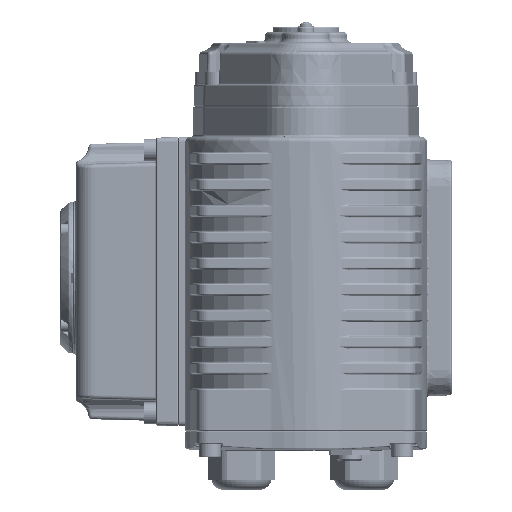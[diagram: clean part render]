
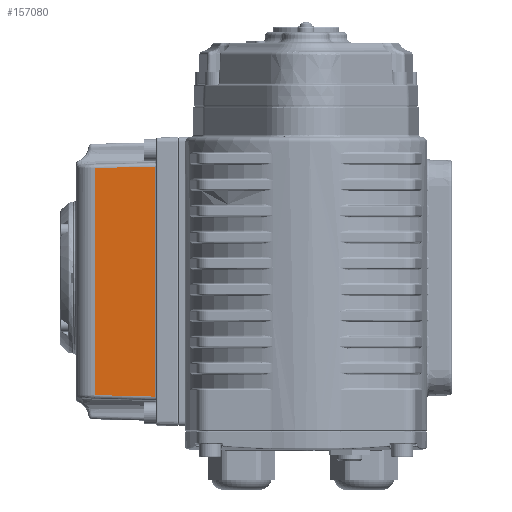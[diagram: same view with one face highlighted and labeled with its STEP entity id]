
A CAD part, left-side view. The second image highlights one B-rep face of the part: STEP entity #157080.
In plain terms, the highlighted planar face has unit normal (-1, 0.026, 0).
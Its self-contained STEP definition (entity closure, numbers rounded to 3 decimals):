
#22828 = VERTEX_POINT ( 'NONE', #206413 ) ;
#26463 = CARTESIAN_POINT ( 'NONE',  ( -59., 58.5, -56. ) ) ;
#46258 = EDGE_CURVE ( 'NONE', #158317, #256857, #146414, .T. ) ;
#54008 = VECTOR ( 'NONE', #283298, 1000. ) ;
#56635 = ORIENTED_EDGE ( 'NONE', *, *, #197739, .T. ) ;
#82341 = VECTOR ( 'NONE', #124119, 1000. ) ;
#85632 = AXIS2_PLACEMENT_3D ( 'NONE', #26463, #254500, #185814 ) ;
#85868 = VECTOR ( 'NONE', #221774, 1000. ) ;
#92366 = VECTOR ( 'NONE', #209437, 1000. ) ;
#107456 = CARTESIAN_POINT ( 'NONE',  ( -58.987, 58.987, 43.488 ) ) ;
#111222 = LINE ( 'NONE', #260474, #54008 ) ;
#124119 = DIRECTION ( 'NONE',  ( 0.026, 0.999, -0.026 ) ) ;
#125045 = ORIENTED_EDGE ( 'NONE', *, *, #155020, .T. ) ;
#135235 = FACE_OUTER_BOUND ( 'NONE', #181054, .T. ) ;
#146414 = LINE ( 'NONE', #176079, #85868 ) ;
#151711 = EDGE_CURVE ( 'NONE', #22828, #158317, #152840, .T. ) ;
#152840 = LINE ( 'NONE', #252395, #92366 ) ;
#155020 = EDGE_CURVE ( 'NONE', #256857, #280209, #111222, .T. ) ;
#157080 = ADVANCED_FACE ( 'NONE', ( #135235 ), #161888, .F. ) ;
#158317 = VERTEX_POINT ( 'NONE', #196885 ) ;
#161888 = PLANE ( 'NONE',  #85632 ) ;
#176079 = CARTESIAN_POINT ( 'NONE',  ( -59.007, 58.252, -46.507 ) ) ;
#179718 = ORIENTED_EDGE ( 'NONE', *, *, #46258, .T. ) ;
#181054 = EDGE_LOOP ( 'NONE', ( #179718, #125045, #56635, #196825 ) ) ;
#185814 = DIRECTION ( 'NONE',  ( 0.026, 1., 0. ) ) ;
#196825 = ORIENTED_EDGE ( 'NONE', *, *, #151711, .T. ) ;
#196885 = CARTESIAN_POINT ( 'NONE',  ( -58.366, 82.696, -45.867 ) ) ;
#197739 = EDGE_CURVE ( 'NONE', #280209, #22828, #260325, .T. ) ;
#206413 = CARTESIAN_POINT ( 'NONE',  ( -58.366, 82.696, 42.867 ) ) ;
#209437 = DIRECTION ( 'NONE',  ( 0., 0., -1. ) ) ;
#221774 = DIRECTION ( 'NONE',  ( -0.026, -0.999, -0.026 ) ) ;
#252395 = CARTESIAN_POINT ( 'NONE',  ( -58.366, 82.696, -56. ) ) ;
#254500 = DIRECTION ( 'NONE',  ( 1., -0.026, 0. ) ) ;
#256857 = VERTEX_POINT ( 'NONE', #281458 ) ;
#260325 = LINE ( 'NONE', #287631, #82341 ) ;
#260474 = CARTESIAN_POINT ( 'NONE',  ( -58.987, 58.987, 43.501 ) ) ;
#280209 = VERTEX_POINT ( 'NONE', #107456 ) ;
#281458 = CARTESIAN_POINT ( 'NONE',  ( -58.987, 58.987, -46.488 ) ) ;
#283298 = DIRECTION ( 'NONE',  ( 0., 0., 1. ) ) ;
#287631 = CARTESIAN_POINT ( 'NONE',  ( -58.932, 61.102, 43.432 ) ) ;
